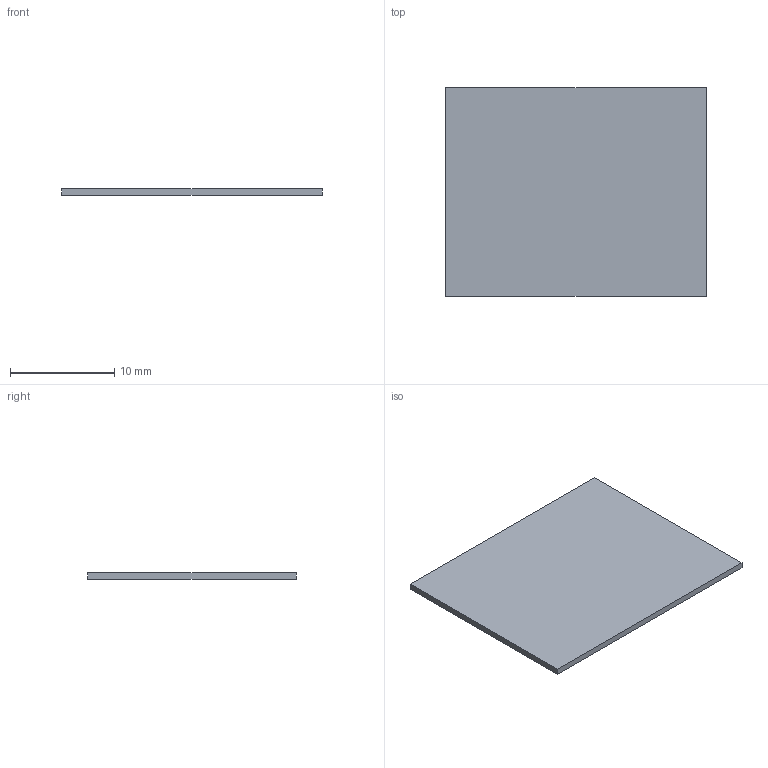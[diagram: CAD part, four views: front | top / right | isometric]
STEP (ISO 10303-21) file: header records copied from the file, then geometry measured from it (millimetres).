
FILE_DESCRIPTION(('Open CASCADE Model'),'2;1');
FILE_NAME('lift_pad','2026-11-19T17:25:15',('Author'),('Open CASCADE'), 'Open CASCADE STEP processor 7.8','build123d','Unknown');
FILE_SCHEMA(('AUTOMOTIVE_DESIGN { 1 0 10303 214 1 1 1 1 }'));
Length unit declared in the file: millimetre
Products named in the file (1): lift_pad
Bounding box: 25 x 20 x 0.6 mm (x, y, z)
Volume: 300 mm3; surface area: 1054 mm2
Topology: 1 solids, 1 shells, 6 faces, 12 edges, 8 vertices
Faces by surface type: plane 6
Entity records: 331 total; most frequent: CARTESIAN_POINT 51, DIRECTION 50, LINE 36, VECTOR 36, ORIENTED_EDGE 24, PCURVE 24, DEFINITIONAL_REPRESENTATION 24, EDGE_CURVE 12
